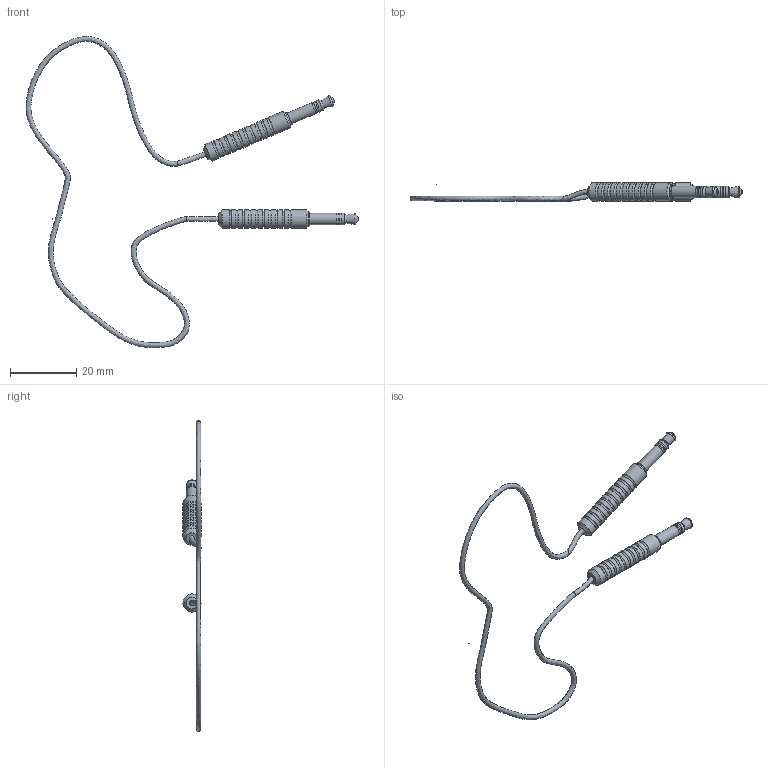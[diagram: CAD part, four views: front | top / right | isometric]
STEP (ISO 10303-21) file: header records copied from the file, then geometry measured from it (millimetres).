
FILE_DESCRIPTION(/* description */ (''),/* implementation_level */ '2;1');
FILE_NAME(/* name */ 'C:\Users\andre\Desktop\Item Writer\Draft 2\STEP Files\3.5mm Jack\3.5mm Jack Cable.stp',/* time_stamp */ '2018-08-02T15:27:56+01:00',/* author */ ('andre'),/* organization */ (''),/* preprocessor_version */ 'ST-DEVELOPER v16.13',/* originating_system */ 'Autodesk Inventor 2018',/* authorisation */ '');
FILE_SCHEMA (('AUTOMOTIVE_DESIGN { 1 0 10303 214 3 1 1 }'));
Length unit declared in the file: millimetre
Products named in the file (5): 3.5mm Jack Cable; Part1; Part2; Part3; Part4
Assembly tree (4 placements, depth 2):
  3.5mm Jack Cable
    Part1
    Part2
    Part3
    Part4
Bounding box: 100.11 x 5.5 x 93.8 mm (x, y, z)
Volume: 1880.5 mm3; surface area: 3792.6 mm2
Topology: 12 solids, 12 shells, 109 faces, 203 edges, 116 vertices
Faces by surface type: cylinder 41, torus 30, plane 23, cone 10, bspline 5
Full cylindrical faces by diameter (mm): 0.1 x3, 3.5 x14, 4 x2, 5.5 x22
Entity records: 4508 total; most frequent: CARTESIAN_POINT 2446, DIRECTION 444, ORIENTED_EDGE 236, AXIS2_PLACEMENT_3D 222, EDGE_LOOP 196, EDGE_CURVE 118, VERTEX_POINT 112, FACE_OUTER_BOUND 109
